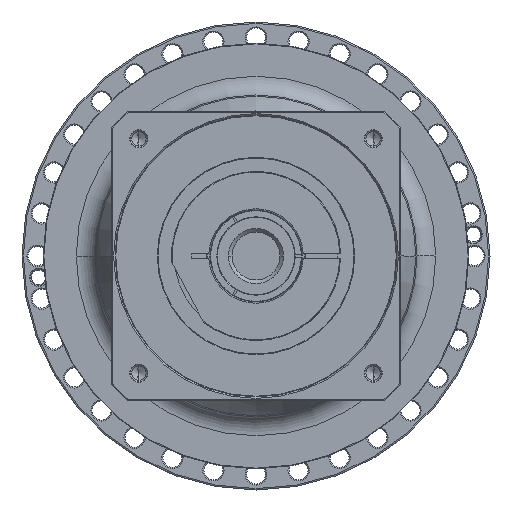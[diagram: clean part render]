
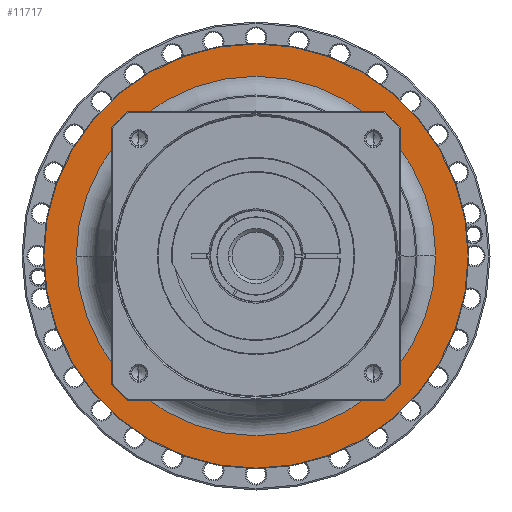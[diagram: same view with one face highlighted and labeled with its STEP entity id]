
A CAD part, left-side view. The second image highlights one B-rep face of the part: STEP entity #11717.
In plain terms, the highlighted planar face has unit normal (-1, 0, 0) as drawn and (1, 0, 0) by its records, which use the part's own axes.
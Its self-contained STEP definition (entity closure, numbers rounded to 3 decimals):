
#11124=CARTESIAN_POINT('',(-43.,0.,0.));
#11125=DIRECTION('',(-1.,0.,0.));
#11126=DIRECTION('',(0.,-1.,0.));
#11127=AXIS2_PLACEMENT_3D('',#11124,#11125,#11126);
#11129=CARTESIAN_POINT('',(-43.,0.,0.));
#11130=DIRECTION('',(-1.,0.,0.));
#11131=DIRECTION('',(0.,1.,0.));
#11132=AXIS2_PLACEMENT_3D('',#11129,#11130,#11131);
#11139=CARTESIAN_POINT('',(-43.,0.,0.));
#11140=DIRECTION('',(1.,0.,0.));
#11141=DIRECTION('',(0.,1.,0.));
#11142=AXIS2_PLACEMENT_3D('',#11139,#11140,#11141);
#11194=CARTESIAN_POINT('',(-43.,0.,0.));
#11195=DIRECTION('',(-1.,0.,0.));
#11196=DIRECTION('',(0.,1.,0.));
#11197=AXIS2_PLACEMENT_3D('',#11194,#11195,#11196);
#11268=CARTESIAN_POINT('',(-43.,-150.5,0.));
#11269=CARTESIAN_POINT('',(-43.,150.5,0.));
#11270=VERTEX_POINT('',#11268);
#11271=VERTEX_POINT('',#11269);
#11296=CARTESIAN_POINT('',(-43.,127.5,0.));
#11297=CARTESIAN_POINT('',(-43.,-127.5,0.));
#11298=VERTEX_POINT('',#11296);
#11299=VERTEX_POINT('',#11297);
#11702=CARTESIAN_POINT('',(-43.,0.,0.));
#11703=DIRECTION('',(1.,0.,0.));
#11704=DIRECTION('',(0.,-1.,0.));
#11705=AXIS2_PLACEMENT_3D('',#11702,#11703,#11704);
#11706=PLANE('',#11705);
#11707=ORIENTED_EDGE('',*,*,#11643,.T.);
#11708=ORIENTED_EDGE('',*,*,#11658,.T.);
#11709=EDGE_LOOP('',(#11707,#11708));
#11710=FACE_OUTER_BOUND('',#11709,.F.);
#11712=ORIENTED_EDGE('',*,*,#11711,.T.);
#11714=ORIENTED_EDGE('',*,*,#11713,.F.);
#11715=EDGE_LOOP('',(#11712,#11714));
#11716=FACE_BOUND('',#11715,.F.);
#11717=ADVANCED_FACE('',(#11710,#11716),#11706,.T.);
#11128=CIRCLE('',#11127,150.5);
#11133=CIRCLE('',#11132,150.5);
#11143=CIRCLE('',#11142,127.5);
#11198=CIRCLE('',#11197,127.5);
#11643=EDGE_CURVE('',#11270,#11271,#11128,.T.);
#11658=EDGE_CURVE('',#11271,#11270,#11133,.T.);
#11711=EDGE_CURVE('',#11298,#11299,#11143,.T.);
#11713=EDGE_CURVE('',#11298,#11299,#11198,.T.);
